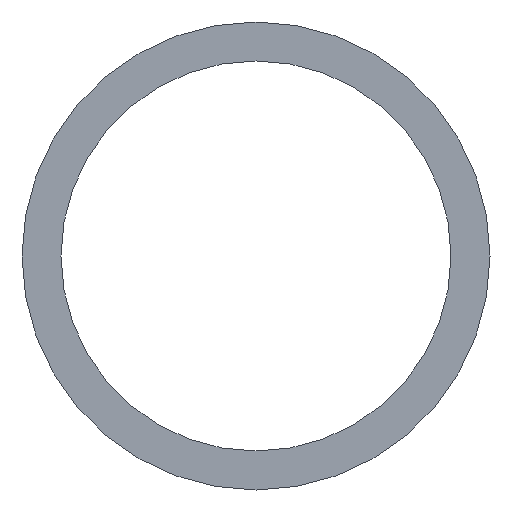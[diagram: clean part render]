
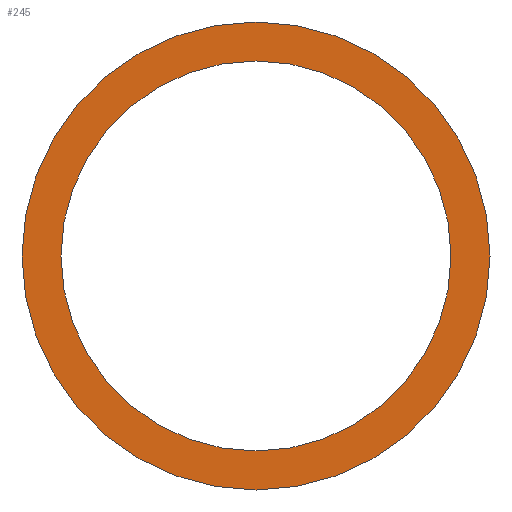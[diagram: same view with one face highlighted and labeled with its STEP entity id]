
A CAD part, front view. The second image highlights one B-rep face of the part: STEP entity #245.
In plain terms, the highlighted planar face has unit normal (0, -1, 0).
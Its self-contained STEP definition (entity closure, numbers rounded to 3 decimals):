
#24 = VERTEX_POINT('',#25);
#25 = CARTESIAN_POINT('',(0.,-4.4,-2.5));
#32 = CYLINDRICAL_SURFACE('',#33,2.5);
#33 = AXIS2_PLACEMENT_3D('',#34,#35,#36);
#34 = CARTESIAN_POINT('',(0.,-4.3,0.));
#35 = DIRECTION('',(0.,-1.,0.));
#36 = DIRECTION('',(0.,0.,-1.));
#44 = CYLINDRICAL_SURFACE('',#45,2.5);
#45 = AXIS2_PLACEMENT_3D('',#46,#47,#48);
#46 = CARTESIAN_POINT('',(0.,-4.3,0.));
#47 = DIRECTION('',(0.,-1.,0.));
#48 = DIRECTION('',(0.,0.,-1.));
#56 = EDGE_CURVE('',#24,#57,#59,.T.);
#57 = VERTEX_POINT('',#58);
#58 = CARTESIAN_POINT('',(0.,-4.4,2.5));
#59 = SURFACE_CURVE('',#60,(#65,#72),.PCURVE_S1.);
#60 = CIRCLE('',#61,2.5);
#61 = AXIS2_PLACEMENT_3D('',#62,#63,#64);
#62 = CARTESIAN_POINT('',(0.,-4.4,0.));
#63 = DIRECTION('',(0.,1.,0.));
#64 = DIRECTION('',(0.,0.,-1.));
#65 = PCURVE('',#32,#66);
#66 = DEFINITIONAL_REPRESENTATION('',(#67),#71);
#67 = LINE('',#68,#69);
#68 = CARTESIAN_POINT('',(6.283,0.1));
#69 = VECTOR('',#70,1.);
#70 = DIRECTION('',(-1.,0.));
#71 = ( GEOMETRIC_REPRESENTATION_CONTEXT(2) 
PARAMETRIC_REPRESENTATION_CONTEXT() REPRESENTATION_CONTEXT('2D SPACE',''
  ) );
#72 = PCURVE('',#73,#78);
#73 = PLANE('',#74);
#74 = AXIS2_PLACEMENT_3D('',#75,#76,#77);
#75 = CARTESIAN_POINT('',(0.,-4.4,0.));
#76 = DIRECTION('',(0.,-1.,0.));
#77 = DIRECTION('',(0.,0.,-1.));
#78 = DEFINITIONAL_REPRESENTATION('',(#79),#87);
#79 = ( BOUNDED_CURVE() B_SPLINE_CURVE(2,(#80,#81,#82,#83,#84,#85,#86),
.UNSPECIFIED.,.T.,.F.) B_SPLINE_CURVE_WITH_KNOTS((1,2,2,2,2,1),(
    -2.094,0.,2.094,4.189,6.283,
8.378),.UNSPECIFIED.) CURVE() GEOMETRIC_REPRESENTATION_ITEM() 
RATIONAL_B_SPLINE_CURVE((1.,0.5,1.,0.5,1.,0.5,1.)) REPRESENTATION_ITEM(
  '') );
#80 = CARTESIAN_POINT('',(2.5,0.));
#81 = CARTESIAN_POINT('',(2.5,-4.33));
#82 = CARTESIAN_POINT('',(-1.25,-2.165));
#83 = CARTESIAN_POINT('',(-5.,0.));
#84 = CARTESIAN_POINT('',(-1.25,2.165));
#85 = CARTESIAN_POINT('',(2.5,4.33));
#86 = CARTESIAN_POINT('',(2.5,0.));
#87 = ( GEOMETRIC_REPRESENTATION_CONTEXT(2) 
PARAMETRIC_REPRESENTATION_CONTEXT() REPRESENTATION_CONTEXT('2D SPACE',''
  ) );
#154 = CYLINDRICAL_SURFACE('',#155,3.);
#155 = AXIS2_PLACEMENT_3D('',#156,#157,#158);
#156 = CARTESIAN_POINT('',(0.,-4.3,0.));
#157 = DIRECTION('',(0.,-1.,0.));
#158 = DIRECTION('',(0.,0.,-1.));
#174 = VERTEX_POINT('',#175);
#175 = CARTESIAN_POINT('',(0.,-4.4,3.));
#189 = CYLINDRICAL_SURFACE('',#190,3.);
#190 = AXIS2_PLACEMENT_3D('',#191,#192,#193);
#191 = CARTESIAN_POINT('',(0.,-4.3,0.));
#192 = DIRECTION('',(0.,-1.,0.));
#193 = DIRECTION('',(0.,0.,-1.));
#201 = EDGE_CURVE('',#202,#174,#204,.T.);
#202 = VERTEX_POINT('',#203);
#203 = CARTESIAN_POINT('',(0.,-4.4,-3.));
#204 = SURFACE_CURVE('',#205,(#210,#217),.PCURVE_S1.);
#205 = CIRCLE('',#206,3.);
#206 = AXIS2_PLACEMENT_3D('',#207,#208,#209);
#207 = CARTESIAN_POINT('',(0.,-4.4,0.));
#208 = DIRECTION('',(0.,-1.,0.));
#209 = DIRECTION('',(0.,0.,-1.));
#210 = PCURVE('',#154,#211);
#211 = DEFINITIONAL_REPRESENTATION('',(#212),#216);
#212 = LINE('',#213,#214);
#213 = CARTESIAN_POINT('',(0.,0.1));
#214 = VECTOR('',#215,1.);
#215 = DIRECTION('',(1.,0.));
#216 = ( GEOMETRIC_REPRESENTATION_CONTEXT(2) 
PARAMETRIC_REPRESENTATION_CONTEXT() REPRESENTATION_CONTEXT('2D SPACE',''
  ) );
#217 = PCURVE('',#73,#218);
#218 = DEFINITIONAL_REPRESENTATION('',(#219),#223);
#219 = CIRCLE('',#220,3.);
#220 = AXIS2_PLACEMENT_2D('',#221,#222);
#221 = CARTESIAN_POINT('',(0.,0.));
#222 = DIRECTION('',(1.,0.));
#223 = ( GEOMETRIC_REPRESENTATION_CONTEXT(2) 
PARAMETRIC_REPRESENTATION_CONTEXT() REPRESENTATION_CONTEXT('2D SPACE',''
  ) );
#245 = ADVANCED_FACE('',(#246,#275),#73,.T.);
#246 = FACE_BOUND('',#247,.T.);
#247 = EDGE_LOOP('',(#248,#249));
#248 = ORIENTED_EDGE('',*,*,#56,.T.);
#249 = ORIENTED_EDGE('',*,*,#250,.T.);
#250 = EDGE_CURVE('',#57,#24,#251,.T.);
#251 = SURFACE_CURVE('',#252,(#257,#268),.PCURVE_S1.);
#252 = CIRCLE('',#253,2.5);
#253 = AXIS2_PLACEMENT_3D('',#254,#255,#256);
#254 = CARTESIAN_POINT('',(0.,-4.4,0.));
#255 = DIRECTION('',(0.,1.,0.));
#256 = DIRECTION('',(0.,0.,-1.));
#257 = PCURVE('',#73,#258);
#258 = DEFINITIONAL_REPRESENTATION('',(#259),#267);
#259 = ( BOUNDED_CURVE() B_SPLINE_CURVE(2,(#260,#261,#262,#263,#264,#265
,#266),.UNSPECIFIED.,.T.,.F.) B_SPLINE_CURVE_WITH_KNOTS((1,2,2,2,2,1),(
    -2.094,0.,2.094,4.189,6.283,
8.378),.UNSPECIFIED.) CURVE() GEOMETRIC_REPRESENTATION_ITEM() 
RATIONAL_B_SPLINE_CURVE((1.,0.5,1.,0.5,1.,0.5,1.)) REPRESENTATION_ITEM(
  '') );
#260 = CARTESIAN_POINT('',(2.5,0.));
#261 = CARTESIAN_POINT('',(2.5,-4.33));
#262 = CARTESIAN_POINT('',(-1.25,-2.165));
#263 = CARTESIAN_POINT('',(-5.,0.));
#264 = CARTESIAN_POINT('',(-1.25,2.165));
#265 = CARTESIAN_POINT('',(2.5,4.33));
#266 = CARTESIAN_POINT('',(2.5,0.));
#267 = ( GEOMETRIC_REPRESENTATION_CONTEXT(2) 
PARAMETRIC_REPRESENTATION_CONTEXT() REPRESENTATION_CONTEXT('2D SPACE',''
  ) );
#268 = PCURVE('',#44,#269);
#269 = DEFINITIONAL_REPRESENTATION('',(#270),#274);
#270 = LINE('',#271,#272);
#271 = CARTESIAN_POINT('',(6.283,0.1));
#272 = VECTOR('',#273,1.);
#273 = DIRECTION('',(-1.,0.));
#274 = ( GEOMETRIC_REPRESENTATION_CONTEXT(2) 
PARAMETRIC_REPRESENTATION_CONTEXT() REPRESENTATION_CONTEXT('2D SPACE',''
  ) );
#275 = FACE_BOUND('',#276,.T.);
#276 = EDGE_LOOP('',(#277,#278));
#277 = ORIENTED_EDGE('',*,*,#201,.T.);
#278 = ORIENTED_EDGE('',*,*,#279,.T.);
#279 = EDGE_CURVE('',#174,#202,#280,.T.);
#280 = SURFACE_CURVE('',#281,(#286,#293),.PCURVE_S1.);
#281 = CIRCLE('',#282,3.);
#282 = AXIS2_PLACEMENT_3D('',#283,#284,#285);
#283 = CARTESIAN_POINT('',(0.,-4.4,0.));
#284 = DIRECTION('',(0.,-1.,0.));
#285 = DIRECTION('',(0.,0.,-1.));
#286 = PCURVE('',#73,#287);
#287 = DEFINITIONAL_REPRESENTATION('',(#288),#292);
#288 = CIRCLE('',#289,3.);
#289 = AXIS2_PLACEMENT_2D('',#290,#291);
#290 = CARTESIAN_POINT('',(0.,0.));
#291 = DIRECTION('',(1.,0.));
#292 = ( GEOMETRIC_REPRESENTATION_CONTEXT(2) 
PARAMETRIC_REPRESENTATION_CONTEXT() REPRESENTATION_CONTEXT('2D SPACE',''
  ) );
#293 = PCURVE('',#189,#294);
#294 = DEFINITIONAL_REPRESENTATION('',(#295),#299);
#295 = LINE('',#296,#297);
#296 = CARTESIAN_POINT('',(0.,0.1));
#297 = VECTOR('',#298,1.);
#298 = DIRECTION('',(1.,0.));
#299 = ( GEOMETRIC_REPRESENTATION_CONTEXT(2) 
PARAMETRIC_REPRESENTATION_CONTEXT() REPRESENTATION_CONTEXT('2D SPACE',''
  ) );
